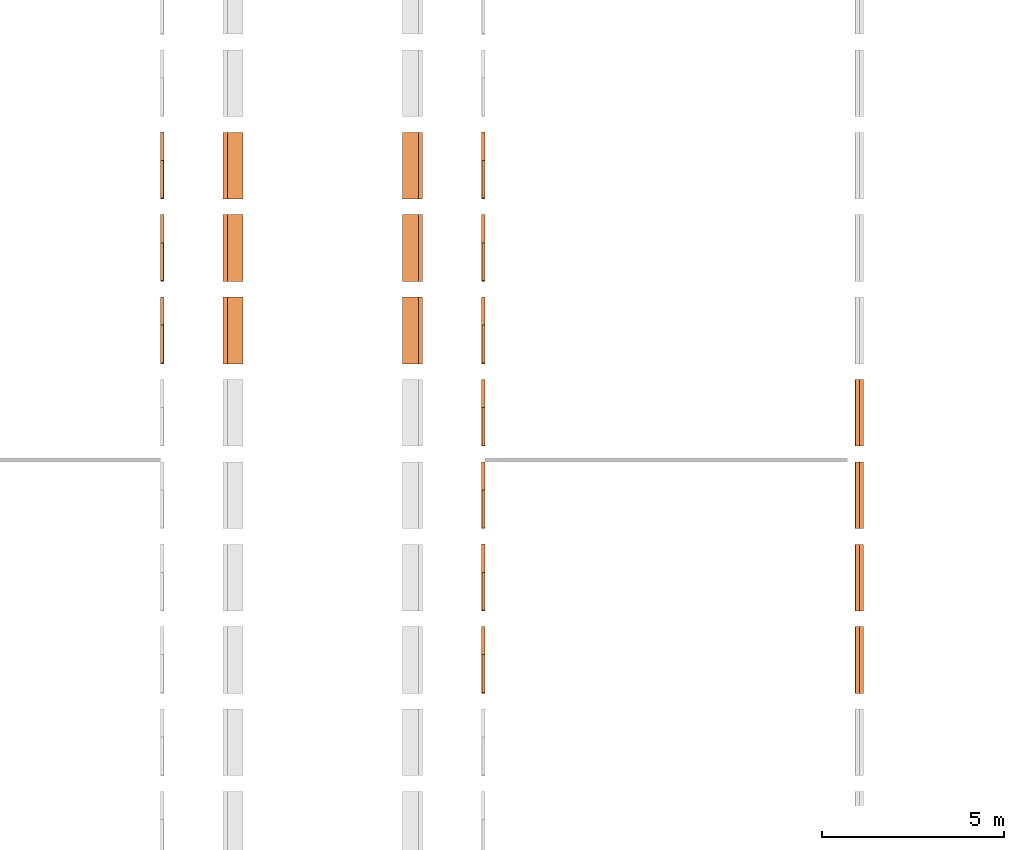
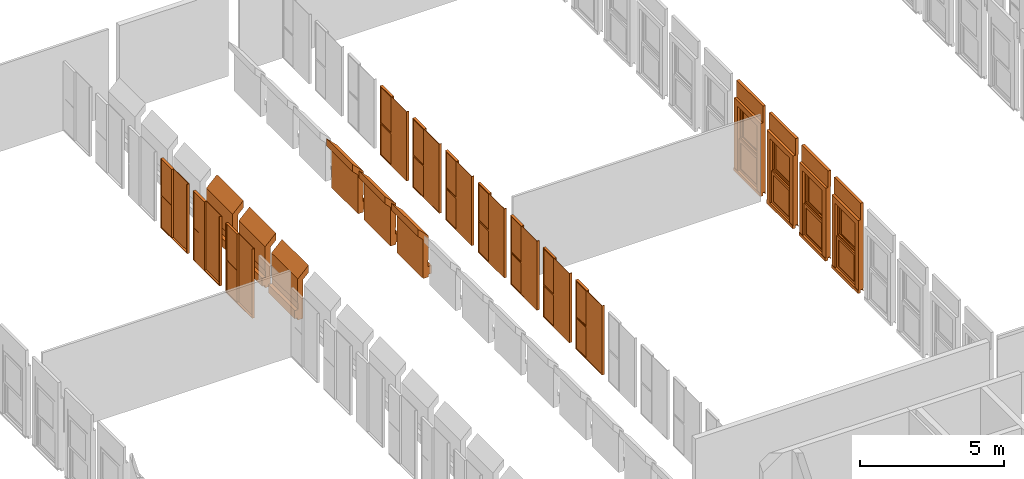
# One storey, part 13 of 16: 20 proxies.
"""IFC2X3 building model written with IfcOpenShell, lengths in millimetres."""

from ifc_helpers import new_model, entity, si_unit, converted_unit, derived_unit, direction, frame, frame_2d, origin, origin_2d_with_axis, place, context, subcontext, project, spatial, polyline, rectangle, outline, extrude, source, transform, mapped, material, material_list, type_object, type_shapes, element, save


model = new_model("IFC2X3")

# Units and contexts
model_context = context("Model", 3, precision=0.01, world=origin(), true_north=direction((6.12303176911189e-17, 1.0)))
body_context = subcontext(model_context, "Body", "Model", "MODEL_VIEW")
ifc_project = project(units=[si_unit("LENGTHUNIT", "METRE", prefix="MILLI"), si_unit("AREAUNIT", "SQUARE_METRE"), si_unit("VOLUMEUNIT", "CUBIC_METRE"), converted_unit("PLANEANGLEUNIT", "DEGREE", entity("IfcRatioMeasure", 0.0174532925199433), si_unit("PLANEANGLEUNIT", "RADIAN"), dimensions=[0, 0, 0, 0, 0, 0, 0]), si_unit("MASSUNIT", "GRAM", prefix="KILO"), derived_unit("MASSDENSITYUNIT", [(si_unit("MASSUNIT", "GRAM", prefix="KILO"), 1), (si_unit("LENGTHUNIT", "METRE"), -3)]), derived_unit("MOMENTOFINERTIAUNIT", [(si_unit("LENGTHUNIT", "METRE"), 4)]), si_unit("TIMEUNIT", "SECOND"), si_unit("FREQUENCYUNIT", "HERTZ"), si_unit("THERMODYNAMICTEMPERATUREUNIT", "DEGREE_CELSIUS"), derived_unit("THERMALTRANSMITTANCEUNIT", [(si_unit("MASSUNIT", "GRAM", prefix="KILO"), 1), (si_unit("THERMODYNAMICTEMPERATUREUNIT", "KELVIN"), -1), (si_unit("TIMEUNIT", "SECOND"), -3)]), derived_unit("VOLUMETRICFLOWRATEUNIT", [(si_unit("LENGTHUNIT", "METRE"), 3), (si_unit("TIMEUNIT", "SECOND"), -1)]), si_unit("ELECTRICCURRENTUNIT", "AMPERE"), si_unit("ELECTRICVOLTAGEUNIT", "VOLT"), si_unit("POWERUNIT", "WATT"), si_unit("FORCEUNIT", "NEWTON", prefix="KILO"), si_unit("ILLUMINANCEUNIT", "LUX"), si_unit("LUMINOUSFLUXUNIT", "LUMEN"), si_unit("LUMINOUSINTENSITYUNIT", "CANDELA"), derived_unit("USERDEFINED", [(si_unit("MASSUNIT", "GRAM", prefix="KILO"), -1), (si_unit("LENGTHUNIT", "METRE"), -2), (si_unit("TIMEUNIT", "SECOND"), 3), (si_unit("LUMINOUSFLUXUNIT", "LUMEN"), 1)]), derived_unit("LINEARVELOCITYUNIT", [(si_unit("LENGTHUNIT", "METRE"), 1), (si_unit("TIMEUNIT", "SECOND"), -1)]), si_unit("PRESSUREUNIT", "PASCAL"), derived_unit("USERDEFINED", [(si_unit("LENGTHUNIT", "METRE"), -2), (si_unit("MASSUNIT", "GRAM", prefix="KILO"), 1), (si_unit("TIMEUNIT", "SECOND"), -2)]), derived_unit("LINEARFORCEUNIT", [(si_unit("MASSUNIT", "GRAM", prefix="KILO"), 1), (si_unit("LENGTHUNIT", "METRE"), 1), (si_unit("TIMEUNIT", "SECOND"), -2), (si_unit("LENGTHUNIT", "METRE"), -1)]), derived_unit("PLANARFORCEUNIT", [(si_unit("MASSUNIT", "GRAM", prefix="KILO"), 1), (si_unit("LENGTHUNIT", "METRE"), 1), (si_unit("TIMEUNIT", "SECOND"), -2), (si_unit("LENGTHUNIT", "METRE"), -2)])], contexts=[model_context])

# Site, building, storey
site_placement = place(None, frame((10627.5135316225, 21939.0796949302, 0.0)))
site = spatial("IfcSite", under=ifc_project, at=site_placement, Name="Default", CompositionType="ELEMENT")
building_placement = place(site_placement, origin())
building = spatial("IfcBuilding", under=site, at=building_placement, CompositionType="ELEMENT")
storey_placement = place(building_placement, frame((0.0, 0.0, 3660.0)))
storey = spatial("IfcBuildingStorey", under=building, at=storey_placement, Name="R+1", CompositionType="ELEMENT", Elevation=3660.0)

# Proxies
ifc_material_1 = material(Name="PVC, Flexible")
ifc_material_2 = material(Name="Glass")
ifc_material_list_1 = material_list([ifc_material_1, ifc_material_2])
building_element_proxy_type_1 = type_object("IfcBuildingElementProxyType", Name="FENETRE.dwg:Fenetre ext 296+70", PredefinedType="NOTDEFINED", material=ifc_material_1)
shared_shape_1 = source(origin(), body_context, "Body", "SweptSolid", [
    extrude(rectangle(XDim=112.500043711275, YDim=1829.99999999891, at=origin_2d_with_axis()), frame((-10.4189092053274, -56.2500218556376, 2960.0), z_axis=(0.0, 0.0, 1.0), x_axis=(0.0, 1.0, 0.0)), (0.0, 0.0, 1.0), 700.0),
    extrude(outline(polyline([(27.5499763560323, -64.4170494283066), (47.5499763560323, -64.4170494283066), (47.5499763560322, -59.4170494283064), (28.7622905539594, -59.4170494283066), (7.54997635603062, 46.6946996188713), (-42.4500236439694, 46.6946996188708), (-42.4500236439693, 32.9446996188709), (-39.9500236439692, 32.9446996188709), (-39.9500236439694, 44.1946996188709), (5.83789859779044, 44.1946996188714), (27.5499763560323, -64.4170494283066)])), frame((-925.418909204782, -66.917049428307, -47.5499763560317), z_axis=(1.0, 0.0, 0.0), x_axis=(0.0, 0.0, 1.0)), (0.0, 0.0, 1.0), 1829.99999999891),
    extrude(outline(polyline([(-54.506636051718, -66.1431859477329), (58.0333803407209, -66.1431859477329), (54.4666704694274, 67.6422744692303), (-57.9934147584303, 64.6440974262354), (-54.506636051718, -66.1431859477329)])), frame((-925.418909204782, 56.2500218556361, -63.833312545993), z_axis=(1.0, 0.0, 0.0), x_axis=(0.0, -0.999644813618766, 0.0266504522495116)), (0.0, 0.0, 1.0), 1829.99999999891),
    extrude(outline(polyline([(-97.0007159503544, -55.5555555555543), (5.85738417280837, -55.5555555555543), (95.357341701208, -55.5555555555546), (95.357341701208, -45.5555555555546), (105.357341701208, -45.5555555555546), (105.357341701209, 174.444444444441), (-106.642659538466, 174.444444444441), (-106.642659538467, -45.5555555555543), (-97.0007159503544, -45.5555555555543), (-97.0007159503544, -55.5555555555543)])), frame((849.025535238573, -5.85738417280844, 0.0), z_axis=(0.0, 0.0, 1.0), x_axis=(0.0, 1.0, 0.0)), (0.0, 0.0, 1.0), 2960.0),
    extrude(rectangle(XDim=1369.99999999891, YDim=199.499957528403, at=origin_2d_with_axis()), frame((-10.4189092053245, -0.250021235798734, 2730.0), z_axis=(0.0, 0.0, 1.0), x_axis=(-1.0, 0.0, 0.0)), (0.0, 0.0, 1.0), 230.000000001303),
    extrude(outline(polyline([(-55.5555555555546, 97.0007159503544), (-55.5555555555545, -5.85738417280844), (-55.5555555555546, -95.357341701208), (-45.5555555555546, -95.3573417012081), (-45.5555555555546, -105.357341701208), (174.444444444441, -105.357341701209), (174.444444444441, 106.642659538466), (-45.5555555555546, 106.642659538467), (-45.5555555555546, 97.0007159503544), (-55.5555555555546, 97.0007159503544)])), frame((-869.863353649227, -5.85738417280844, 0.0), z_axis=(0.0, 0.0, -1.0), x_axis=(1.0, 0.0, 0.0)), (0.0, 0.0, -1.0), 2960.0),
    extrude(rectangle(XDim=1079.99999999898, YDim=1.0, at=origin_2d_with_axis()), frame((-10.4189092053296, 19.5, 130.0), z_axis=(0.0, 0.0, 1.0), x_axis=(-1.0, 0.0, 0.0)), (0.0, 0.0, 1.0), 1120.00000000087),
    extrude(rectangle(XDim=1079.99999999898, YDim=1.0, at=origin_2d_with_axis()), frame((-10.4189092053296, 30.5, 130.0), z_axis=(0.0, 0.0, 1.0), x_axis=(-1.0, 0.0, 0.0)), (0.0, 0.0, 1.0), 1120.00000000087),
    extrude(rectangle(XDim=1079.99999999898, YDim=1.0, at=frame_2d((0.0, 4.21884749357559e-15), x_axis=(1.0, 0.0))), frame((-10.4189092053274, -69.5, 1465.0), z_axis=(0.0, 0.0, 1.0), x_axis=(-1.0, 0.0, 0.0)), (0.0, 0.0, 1.0), 1120.0),
    extrude(rectangle(XDim=1079.99999999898, YDim=0.999999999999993, at=frame_2d((0.0, -8.46545056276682e-15), x_axis=(1.0, 0.0))), frame((-10.4189092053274, -80.5, 1465.0), z_axis=(0.0, 0.0, 1.0), x_axis=(-1.0, 0.0, 0.0)), (0.0, 0.0, 1.0), 1120.00000000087),
    extrude(outline(polyline([(-685.0, -1365.0), (0.0, -1365.0), (685.0, -1365.0), (685.0, 1365.0), (0.0, 1365.0), (-685.0, 1365.0), (-685.0, -1365.0)]), holes=[polyline([(-640.0, -1320.0), (-640.0, -45.0), (0.0, -45.0), (640.0, -45.0), (640.0, -1320.0), (0.0, -1320.0), (-640.0, -1320.0)]), polyline([(-640.0, 40.0), (-640.0, 1315.0), (0.0, 1315.0), (640.0, 1315.0), (640.0, 40.0), (0.0, 40.0), (-640.0, 40.0)])]), frame((-10.4189092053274, -50.0, 1365.0), z_axis=(0.0, 1.0, 0.0), x_axis=(1.0, 0.0, 0.0)), (0.0, 0.0, 1.0), 50.0),
    extrude(outline(polyline([(-655.0, -667.500000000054), (655.0, -667.500000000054), (655.0, 667.500000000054), (-655.0, 667.500000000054), (-655.0, -667.500000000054)]), holes=[polyline([(-540.0, 552.500000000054), (540.0, 552.500000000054), (540.0, -567.500000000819), (-540.0, -567.500000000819), (-540.0, 552.500000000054)])]), frame((-10.4189092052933, 0.0, 697.500000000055), z_axis=(0.0, 1.0, 0.0), x_axis=(-1.0, 0.0, 0.0)), (0.0, 0.0, 1.0), 50.0),
    extrude(outline(polyline([(-655.0, -667.500000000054), (655.0, -667.500000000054), (655.0, 667.500000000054), (-655.0, 667.500000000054), (-655.0, -667.500000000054)]), holes=[polyline([(-540.0, 552.500000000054), (540.0, 552.500000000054), (540.0, -567.500000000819), (-540.0, -567.500000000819), (-540.0, 552.500000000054)])]), frame((-10.4189092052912, -100.0, 2032.50000000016), z_axis=(0.0, 1.0, 0.0), x_axis=(-1.0, 0.0, 0.0)), (0.0, 0.0, 1.0), 50.0),
])
type_shapes(building_element_proxy_type_1, [shared_shape_1])
proxy_1_placement = place(storey_placement, frame((41294.0694789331, 1801.33921427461, 0.0), z_axis=(0.0, 0.0, 1.0), x_axis=(0.0, 1.0, 0.0)))
element("IfcBuildingElementProxy", 1, at=proxy_1_placement, inside=storey, type_object=building_element_proxy_type_1, material=ifc_material_list_1, Name="FENETRE.dwg:Fenetre ext 296+70", ObjectType="FENETRE.dwg:Fenetre ext 296+70", context=body_context, shape_type="MappedRepresentation", body=[
    mapped(shared_shape_1, transform((0.0, 0.0, 0.0), scale=1.0)),
])
ifc_material_list_2 = material_list([ifc_material_1, ifc_material_2])
proxy_2_placement = place(storey_placement, frame((41294.0694789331, -458.660785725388, 0.0), z_axis=(0.0, 0.0, 1.0), x_axis=(0.0, 1.0, 0.0)))
element("IfcBuildingElementProxy", 2, at=proxy_2_placement, inside=storey, type_object=building_element_proxy_type_1, material=ifc_material_list_2, Name="FENETRE.dwg:Fenetre ext 296+70", ObjectType="FENETRE.dwg:Fenetre ext 296+70", context=body_context, shape_type="MappedRepresentation", body=[
    mapped(shared_shape_1, transform((0.0, 0.0, 0.0), scale=1.0)),
])
ifc_material_list_3 = material_list([ifc_material_1, ifc_material_2])
proxy_3_placement = place(storey_placement, frame((41294.0694789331, -2718.66078572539, 0.0), z_axis=(0.0, 0.0, 1.0), x_axis=(0.0, 1.0, 0.0)))
element("IfcBuildingElementProxy", 3, at=proxy_3_placement, inside=storey, type_object=building_element_proxy_type_1, material=ifc_material_list_3, Name="FENETRE.dwg:Fenetre ext 296+70", ObjectType="FENETRE.dwg:Fenetre ext 296+70", context=body_context, shape_type="MappedRepresentation", body=[
    mapped(shared_shape_1, transform((0.0, 0.0, 0.0), scale=1.0)),
])
ifc_material_list_4 = material_list([ifc_material_1, ifc_material_2])
proxy_4_placement = place(storey_placement, frame((41294.0694789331, -4978.66078572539, 0.0), z_axis=(0.0, 0.0, 1.0), x_axis=(0.0, 1.0, 0.0)))
element("IfcBuildingElementProxy", 4, at=proxy_4_placement, inside=storey, type_object=building_element_proxy_type_1, material=ifc_material_list_4, Name="FENETRE.dwg:Fenetre ext 296+70", ObjectType="FENETRE.dwg:Fenetre ext 296+70", context=body_context, shape_type="MappedRepresentation", body=[
    mapped(shared_shape_1, transform((0.0, 0.0, 0.0), scale=1.0)),
])
ifc_material_3 = material(Name="Plywood, Sheathing")
ifc_material_list_5 = material_list([ifc_material_3, ifc_material_2])
building_element_proxy_type_2 = type_object("IfcBuildingElementProxyType", Name="Porte noire:Porte noire", PredefinedType="NOTDEFINED", material=ifc_material_3)
shared_shape_2 = source(origin(), body_context, "Body", "SweptSolid", [
    extrude(rectangle(XDim=100.0, YDim=23.0000000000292, at=origin_2d_with_axis()), frame((-950.918997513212, -50.0, 8.73189890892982), z_axis=(0.0, 0.0, 1.0), x_axis=(0.0, 1.0, 0.0)), (0.0, 0.0, 1.0), 2933.34951039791),
    extrude(rectangle(XDim=19.0, YDim=1038.0, at=frame_2d((7.99360577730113e-15, 0.0), x_axis=(1.0, 0.0))), frame((-420.418997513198, -87.5, 43.7318989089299), z_axis=(0.0, 0.0, 1.0), x_axis=(0.0, 1.0, 0.0)), (0.0, 0.0, 1.0), 2898.5),
    extrude(rectangle(XDim=100.0, YDim=1775.0, at=origin_2d_with_axis()), frame((-51.9189975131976, -50.0, 8.73189890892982), z_axis=(0.0, 0.0, 1.0), x_axis=(0.0, 1.0, 0.0)), (0.0, 0.0, 1.0), 35.0000000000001),
    extrude(rectangle(XDim=100.0, YDim=35.0000000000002, at=origin_2d_with_axis()), frame((853.081002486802, -50.0, 8.73189890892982), z_axis=(0.0, 0.0, 1.0), x_axis=(0.0, 1.0, 0.0)), (0.0, 0.0, 1.0), 2898.5),
    extrude(rectangle(XDim=100.0, YDim=740.0, at=origin_2d_with_axis()), frame((500.581002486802, -50.0, 2907.23189890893), z_axis=(0.0, 0.0, 1.0), x_axis=(0.0, 1.0, 0.0)), (0.0, 0.0, 1.0), 35.0000000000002),
    extrude(rectangle(XDim=100.0, YDim=31.9999999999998, at=origin_2d_with_axis()), frame((114.581002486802, -50.0, 43.7318989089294), z_axis=(0.0, 0.0, 1.0), x_axis=(0.0, 1.0, 0.0)), (0.0, 0.0, 1.0), 2898.5),
    extrude(rectangle(XDim=100.0, YDim=705.0, at=origin_2d_with_axis()), frame((483.081002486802, -50.0, 1343.73189890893), z_axis=(0.0, 0.0, 1.0), x_axis=(0.0, 1.0, 0.0)), (0.0, 0.0, 1.0), 55.0),
    extrude(outline(polyline([(-352.5, -650.0), (352.5, -650.0), (352.5, 650.0), (-352.5, 650.0), (-352.5, -650.0)]), holes=[polyline([(342.5, 640.0), (342.5, -640.0), (-342.5, -640.0), (-342.5, 640.0), (342.5, 640.0)])]), frame((483.081002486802, -80.0, 693.73189890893), z_axis=(0.0, 1.0, 0.0), x_axis=(1.0, 0.0, 0.0)), (0.0, 0.0, 1.0), 70.0),
    extrude(outline(polyline([(-754.25, -352.5), (754.25, -352.5), (754.25, 352.5), (-754.25, 352.5), (-754.25, -352.5)]), holes=[polyline([(744.25, 342.5), (744.25, -342.5), (-744.25, -342.5), (-744.25, 342.5), (744.25, 342.5)])]), frame((483.081002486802, -80.0, 2152.98189890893), z_axis=(0.0, 1.0, 0.0), x_axis=(0.0, 0.0, 1.0)), (0.0, 0.0, 1.0), 70.0),
    extrude(outline(polyline([(-640.0, -342.5), (640.0, -342.5), (640.0, 342.5), (-640.0, 342.5), (-640.0, -342.5)]), holes=[polyline([(630.0, 332.5), (630.0, -332.5), (-630.0, -332.5), (-630.0, 332.5), (630.0, 332.5)])]), frame((483.081002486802, -81.0, 693.731898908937), z_axis=(0.0, 1.0, 0.0), x_axis=(0.0, 0.0, 1.0)), (0.0, 0.0, 1.0), 3.99999999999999),
    extrude(outline(polyline([(-744.25, -342.5), (744.25, -342.5), (744.25, 342.5), (-744.25, 342.5), (-744.25, -342.5)]), holes=[polyline([(734.25, 332.5), (734.25, -332.5), (-734.25, -332.5), (-734.25, 332.5), (734.25, 332.5)])]), frame((483.081002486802, -81.0, 2152.98189890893), z_axis=(0.0, 1.0, 0.0), x_axis=(0.0, 0.0, 1.0)), (0.0, 0.0, 1.0), 3.99999999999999),
    extrude(outline(polyline([(-640.0, -342.5), (640.0, -342.5), (640.0, 342.5), (-640.0, 342.5), (-640.0, -342.5)]), holes=[polyline([(630.0, 332.5), (630.0, -332.5), (-630.0, -332.5), (-630.0, 332.5), (630.0, 332.5)])]), frame((483.081002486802, -15.0, 693.782575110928), z_axis=(0.0, 1.0, 0.0), x_axis=(0.0, 0.0, 1.0)), (0.0, 0.0, 1.0), 5.0),
    extrude(outline(polyline([(-744.25, -342.5), (744.25, -342.5), (744.25, 342.5), (-744.25, 342.5), (-744.25, -342.5)]), holes=[polyline([(734.25, 332.5), (734.25, -332.5), (-734.25, -332.5), (-734.25, 332.5), (734.25, 332.5)])]), frame((483.081002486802, -15.0, 2153.03257511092), z_axis=(0.0, 1.0, 0.0), x_axis=(0.0, 0.0, 1.0)), (0.0, 0.0, 1.0), 5.0),
    extrude(rectangle(XDim=2.0, YDim=665.0, at=frame_2d((8.43769498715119e-15, 0.0), x_axis=(1.0, 0.0))), frame((483.081002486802, -79.0, 1418.73189890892), z_axis=(0.0, 0.0, 1.0), x_axis=(0.0, 1.0, 0.0)), (0.0, 0.0, 1.0), 1468.50000000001),
    extrude(rectangle(XDim=2.0, YDim=665.0, at=frame_2d((8.43769498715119e-15, 0.0), x_axis=(1.0, 0.0))), frame((483.081002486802, -79.0, 63.7318989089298), z_axis=(0.0, 0.0, 1.0), x_axis=(0.0, 1.0, 0.0)), (0.0, 0.0, 1.0), 1260.0),
    extrude(rectangle(XDim=2.0, YDim=665.0, at=frame_2d((1.0547118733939e-15, 0.0), x_axis=(1.0, 0.0))), frame((483.081002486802, -13.0, 1418.78257511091), z_axis=(0.0, 0.0, 1.0), x_axis=(0.0, 1.0, 0.0)), (0.0, 0.0, 1.0), 1468.50000000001),
    extrude(rectangle(XDim=2.0, YDim=665.0, at=frame_2d((1.0547118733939e-15, 0.0), x_axis=(1.0, 0.0))), frame((483.081002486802, -13.0, 63.7825751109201), z_axis=(0.0, 0.0, 1.0), x_axis=(0.0, 1.0, 0.0)), (0.0, 0.0, 1.0), 1260.0),
])
type_shapes(building_element_proxy_type_2, [shared_shape_2])
proxy_5_placement = place(storey_placement, frame((22127.8464640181, 4097.33930258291, 0.0), z_axis=(0.0, 0.0, 1.0), x_axis=(0.0, 1.0, 0.0)))
element("IfcBuildingElementProxy", 5, at=proxy_5_placement, inside=storey, type_object=building_element_proxy_type_2, material=ifc_material_list_5, Name="Porte noire:Porte noire", ObjectType="Porte noire:Porte noire", context=body_context, shape_type="MappedRepresentation", body=[
    mapped(shared_shape_2, transform((0.0, 0.0, 0.0), scale=1.0)),
])
ifc_material_list_6 = material_list([ifc_material_3, ifc_material_2])
proxy_6_placement = place(storey_placement, frame((22127.8464640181, 6357.33930258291, 0.0), z_axis=(0.0, 0.0, 1.0), x_axis=(0.0, 1.0, 0.0)))
element("IfcBuildingElementProxy", 6, at=proxy_6_placement, inside=storey, type_object=building_element_proxy_type_2, material=ifc_material_list_6, Name="Porte noire:Porte noire", ObjectType="Porte noire:Porte noire", context=body_context, shape_type="MappedRepresentation", body=[
    mapped(shared_shape_2, transform((0.0, 0.0, 0.0), scale=1.0)),
])
ifc_material_list_7 = material_list([ifc_material_3, ifc_material_2])
proxy_7_placement = place(storey_placement, frame((22127.8464640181, 8617.33930258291, 0.0), z_axis=(0.0, 0.0, 1.0), x_axis=(0.0, 1.0, 0.0)))
element("IfcBuildingElementProxy", 7, at=proxy_7_placement, inside=storey, type_object=building_element_proxy_type_2, material=ifc_material_list_7, Name="Porte noire:Porte noire", ObjectType="Porte noire:Porte noire", context=body_context, shape_type="MappedRepresentation", body=[
    mapped(shared_shape_2, transform((0.0, 0.0, 0.0), scale=1.0)),
])
ifc_material_list_8 = material_list([ifc_material_3, ifc_material_2])
building_element_proxy_type_3 = type_object("IfcBuildingElementProxyType", Name="Porte noire:Porte noire", PredefinedType="NOTDEFINED", material=ifc_material_3)
shared_shape_3 = source(origin(), body_context, "Body", "SweptSolid", [
    extrude(rectangle(XDim=23.0000000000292, YDim=100.0, at=frame_2d((-1.35891298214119e-13, 0.0), x_axis=(1.0, 0.0))), frame((-950.918997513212, 50.0, 8.73189890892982), z_axis=(0.0, 0.0, 1.0), x_axis=(-1.0, 0.0, 0.0)), (0.0, 0.0, 1.0), 2933.34951039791),
    extrude(rectangle(XDim=1038.0, YDim=19.0, at=frame_2d((0.0, 7.99360577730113e-15), x_axis=(1.0, 0.0))), frame((-420.418997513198, 87.5, 43.7318989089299), z_axis=(0.0, 0.0, 1.0), x_axis=(-1.0, 0.0, 0.0)), (0.0, 0.0, 1.0), 2898.5),
    extrude(rectangle(XDim=1775.0, YDim=100.0, at=origin_2d_with_axis()), frame((-51.9189975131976, 50.0, 8.73189890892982), z_axis=(0.0, 0.0, 1.0), x_axis=(-1.0, 0.0, 0.0)), (0.0, 0.0, 1.0), 35.0000000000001),
    extrude(rectangle(XDim=35.0000000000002, YDim=100.0, at=origin_2d_with_axis()), frame((853.081002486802, 50.0, 8.73189890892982), z_axis=(0.0, 0.0, 1.0), x_axis=(-1.0, 0.0, 0.0)), (0.0, 0.0, 1.0), 2898.5),
    extrude(rectangle(XDim=740.0, YDim=100.0, at=origin_2d_with_axis()), frame((500.581002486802, 50.0, 2907.23189890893), z_axis=(0.0, 0.0, 1.0), x_axis=(-1.0, 0.0, 0.0)), (0.0, 0.0, 1.0), 35.0000000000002),
    extrude(rectangle(XDim=31.9999999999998, YDim=100.0, at=origin_2d_with_axis()), frame((114.581002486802, 50.0, 43.7318989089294), z_axis=(0.0, 0.0, 1.0), x_axis=(-1.0, 0.0, 0.0)), (0.0, 0.0, 1.0), 2898.5),
    extrude(rectangle(XDim=705.0, YDim=100.0, at=origin_2d_with_axis()), frame((483.081002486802, 50.0, 1343.73189890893), z_axis=(0.0, 0.0, 1.0), x_axis=(-1.0, 0.0, 0.0)), (0.0, 0.0, 1.0), 55.0),
    extrude(outline(polyline([(-352.5, -650.0), (352.5, -650.0), (352.5, 650.0), (-352.5, 650.0), (-352.5, -650.0)]), holes=[polyline([(342.5, 640.0), (342.5, -640.0), (-342.5, -640.0), (-342.5, 640.0), (342.5, 640.0)])]), frame((483.081002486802, 10.0, 693.73189890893), z_axis=(0.0, 1.0, 0.0), x_axis=(1.0, 0.0, 0.0)), (0.0, 0.0, 1.0), 70.0),
    extrude(outline(polyline([(-754.25, -352.5), (754.25, -352.5), (754.25, 352.5), (-754.25, 352.5), (-754.25, -352.5)]), holes=[polyline([(744.25, 342.5), (744.25, -342.5), (-744.25, -342.5), (-744.25, 342.5), (744.25, 342.5)])]), frame((483.081002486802, 10.0, 2152.98189890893), z_axis=(0.0, 1.0, 0.0), x_axis=(0.0, 0.0, 1.0)), (0.0, 0.0, 1.0), 70.0),
    extrude(outline(polyline([(-640.0, -342.5), (640.0, -342.5), (640.0, 342.5), (-640.0, 342.5), (-640.0, -342.5)]), holes=[polyline([(630.0, 332.5), (630.0, -332.5), (-630.0, -332.5), (-630.0, 332.5), (630.0, 332.5)])]), frame((483.081002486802, 77.0, 693.731898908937), z_axis=(0.0, 1.0, 0.0), x_axis=(0.0, 0.0, 1.0)), (0.0, 0.0, 1.0), 3.99999999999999),
    extrude(outline(polyline([(-744.25, -342.5), (744.25, -342.5), (744.25, 342.5), (-744.25, 342.5), (-744.25, -342.5)]), holes=[polyline([(734.25, 332.5), (734.25, -332.5), (-734.25, -332.5), (-734.25, 332.5), (734.25, 332.5)])]), frame((483.081002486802, 77.0, 2152.98189890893), z_axis=(0.0, 1.0, 0.0), x_axis=(0.0, 0.0, 1.0)), (0.0, 0.0, 1.0), 3.99999999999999),
    extrude(outline(polyline([(-640.0, -342.5), (640.0, -342.5), (640.0, 342.5), (-640.0, 342.5), (-640.0, -342.5)]), holes=[polyline([(630.0, 332.5), (630.0, -332.5), (-630.0, -332.5), (-630.0, 332.5), (630.0, 332.5)])]), frame((483.081002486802, 10.0, 693.782575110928), z_axis=(0.0, 1.0, 0.0), x_axis=(0.0, 0.0, 1.0)), (0.0, 0.0, 1.0), 5.0),
    extrude(outline(polyline([(-744.25, -342.5), (744.25, -342.5), (744.25, 342.5), (-744.25, 342.5), (-744.25, -342.5)]), holes=[polyline([(734.25, 332.5), (734.25, -332.5), (-734.25, -332.5), (-734.25, 332.5), (734.25, 332.5)])]), frame((483.081002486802, 10.0, 2153.03257511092), z_axis=(0.0, 1.0, 0.0), x_axis=(0.0, 0.0, 1.0)), (0.0, 0.0, 1.0), 5.0),
    extrude(rectangle(XDim=665.0, YDim=2.0, at=frame_2d((0.0, 8.43769498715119e-15), x_axis=(1.0, 0.0))), frame((483.081002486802, 79.0, 1418.73189890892), z_axis=(0.0, 0.0, 1.0), x_axis=(-1.0, 0.0, 0.0)), (0.0, 0.0, 1.0), 1468.50000000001),
    extrude(rectangle(XDim=665.0, YDim=2.0, at=frame_2d((0.0, 8.43769498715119e-15), x_axis=(1.0, 0.0))), frame((483.081002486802, 79.0, 63.7318989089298), z_axis=(0.0, 0.0, 1.0), x_axis=(-1.0, 0.0, 0.0)), (0.0, 0.0, 1.0), 1260.0),
    extrude(rectangle(XDim=665.0, YDim=2.0, at=frame_2d((0.0, 1.0547118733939e-15), x_axis=(1.0, 0.0))), frame((483.081002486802, 13.0, 1418.78257511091), z_axis=(0.0, 0.0, 1.0), x_axis=(-1.0, 0.0, 0.0)), (0.0, 0.0, 1.0), 1468.50000000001),
    extrude(rectangle(XDim=665.0, YDim=2.0, at=frame_2d((0.0, 1.0547118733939e-15), x_axis=(1.0, 0.0))), frame((483.081002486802, 13.0, 63.7825751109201), z_axis=(0.0, 0.0, 1.0), x_axis=(-1.0, 0.0, 0.0)), (0.0, 0.0, 1.0), 1260.0),
])
type_shapes(building_element_proxy_type_3, [shared_shape_3])
proxy_8_placement = place(storey_placement, frame((31027.1264727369, -4942.66069741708, 0.0), z_axis=(0.0, 0.0, 1.0), x_axis=(0.0, 1.0, 0.0)))
element("IfcBuildingElementProxy", 8, at=proxy_8_placement, inside=storey, type_object=building_element_proxy_type_3, material=ifc_material_list_8, Name="Porte noire:Porte noire", ObjectType="Porte noire:Porte noire", context=body_context, shape_type="MappedRepresentation", body=[
    mapped(shared_shape_3, transform((0.0, 0.0, 0.0), scale=1.0)),
])
ifc_material_list_9 = material_list([ifc_material_3, ifc_material_2])
proxy_9_placement = place(storey_placement, frame((31027.1264727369, -2682.66069741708, 0.0), z_axis=(0.0, 0.0, 1.0), x_axis=(0.0, 1.0, 0.0)))
element("IfcBuildingElementProxy", 9, at=proxy_9_placement, inside=storey, type_object=building_element_proxy_type_3, material=ifc_material_list_9, Name="Porte noire:Porte noire", ObjectType="Porte noire:Porte noire", context=body_context, shape_type="MappedRepresentation", body=[
    mapped(shared_shape_3, transform((0.0, 0.0, 0.0), scale=1.0)),
])
ifc_material_list_10 = material_list([ifc_material_3, ifc_material_2])
proxy_10_placement = place(storey_placement, frame((31027.1264727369, -422.660697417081, 0.0), z_axis=(0.0, 0.0, 1.0), x_axis=(0.0, 1.0, 0.0)))
element("IfcBuildingElementProxy", 10, at=proxy_10_placement, inside=storey, type_object=building_element_proxy_type_3, material=ifc_material_list_10, Name="Porte noire:Porte noire", ObjectType="Porte noire:Porte noire", context=body_context, shape_type="MappedRepresentation", body=[
    mapped(shared_shape_3, transform((0.0, 0.0, 0.0), scale=1.0)),
])
ifc_material_list_11 = material_list([ifc_material_3, ifc_material_2])
proxy_11_placement = place(storey_placement, frame((31027.1264727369, 1837.33930258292, 0.0), z_axis=(0.0, 0.0, 1.0), x_axis=(0.0, 1.0, 0.0)))
element("IfcBuildingElementProxy", 11, at=proxy_11_placement, inside=storey, type_object=building_element_proxy_type_3, material=ifc_material_list_11, Name="Porte noire:Porte noire", ObjectType="Porte noire:Porte noire", context=body_context, shape_type="MappedRepresentation", body=[
    mapped(shared_shape_3, transform((0.0, 0.0, 0.0), scale=1.0)),
])
ifc_material_list_12 = material_list([ifc_material_3, ifc_material_2])
proxy_12_placement = place(storey_placement, frame((31027.1264727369, 4097.33930258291, 0.0), z_axis=(0.0, 0.0, 1.0), x_axis=(0.0, 1.0, 0.0)))
element("IfcBuildingElementProxy", 12, at=proxy_12_placement, inside=storey, type_object=building_element_proxy_type_3, material=ifc_material_list_12, Name="Porte noire:Porte noire", ObjectType="Porte noire:Porte noire", context=body_context, shape_type="MappedRepresentation", body=[
    mapped(shared_shape_3, transform((0.0, 0.0, 0.0), scale=1.0)),
])
ifc_material_list_13 = material_list([ifc_material_3, ifc_material_2])
proxy_13_placement = place(storey_placement, frame((31027.1264727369, 6357.33930258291, 0.0), z_axis=(0.0, 0.0, 1.0), x_axis=(0.0, 1.0, 0.0)))
element("IfcBuildingElementProxy", 13, at=proxy_13_placement, inside=storey, type_object=building_element_proxy_type_3, material=ifc_material_list_13, Name="Porte noire:Porte noire", ObjectType="Porte noire:Porte noire", context=body_context, shape_type="MappedRepresentation", body=[
    mapped(shared_shape_3, transform((0.0, 0.0, 0.0), scale=1.0)),
])
ifc_material_list_14 = material_list([ifc_material_3, ifc_material_2])
proxy_14_placement = place(storey_placement, frame((31027.1264727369, 8617.33930258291, 0.0), z_axis=(0.0, 0.0, 1.0), x_axis=(0.0, 1.0, 0.0)))
element("IfcBuildingElementProxy", 14, at=proxy_14_placement, inside=storey, type_object=building_element_proxy_type_3, material=ifc_material_list_14, Name="Porte noire:Porte noire", ObjectType="Porte noire:Porte noire", context=body_context, shape_type="MappedRepresentation", body=[
    mapped(shared_shape_3, transform((0.0, 0.0, 0.0), scale=1.0)),
])
ifc_material_4 = material(Name="Concrete, Precast Smooth, Light Grey")
building_element_proxy_type_4 = type_object("IfcBuildingElementProxyType", Name="Panneaux mediateque:Panneaux mediateque", PredefinedType="NOTDEFINED", material=ifc_material_4)
shared_shape_4 = source(origin(), body_context, "Body", "SweptSolid", [
    extrude(outline(polyline([(-998.434688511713, -508.899393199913), (-1213.39514999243, -723.859854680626), (-605.283318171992, -723.859854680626), (115.965598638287, -2.61093787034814), (101.823463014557, 11.5311977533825), (296.277827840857, 205.985562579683), (310.419963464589, 191.843426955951), (395.272229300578, 106.991161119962), (639.224068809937, 350.943000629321), (554.371802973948, 435.79526646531), (625.082466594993, 506.505930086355), (473.054508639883, 658.533888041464), (-694.378772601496, -508.899393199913), (-998.434688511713, -508.899393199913)])), frame((0.0, -203.845498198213, 800.153828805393), z_axis=(-1.0, 0.0, 0.0), x_axis=(0.0, 0.707106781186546, -0.707106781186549)), (0.0, 0.0, -1.0), 1830.0),
])
type_shapes(building_element_proxy_type_4, [shared_shape_4])
for number, where, z_axis, x_axis, name in (
    (15, (23837.4872432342, 7655.92030506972, -700.0), (0.0, 0.0, 1.0), (0.0, 1.0, 0.0), "Panneaux mediateque:Panneaux mediateque"),
    (16, (23837.4872432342, 5395.92030506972, -700.0), (0.0, 0.0, 1.0), (0.0, 1.0, 0.0), "Panneaux mediateque:Panneaux mediateque"),
    (17, (23837.4872432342, 3135.92030506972, -700.0), (0.0, 0.0, 1.0), (0.0, 1.0, 0.0), "Panneaux mediateque:Panneaux mediateque"),
):
    element("IfcBuildingElementProxy", number, at=place(storey_placement, frame(where, z_axis=z_axis, x_axis=x_axis)), inside=storey, type_object=building_element_proxy_type_4, material=ifc_material_4, Name=name, ObjectType="Panneaux mediateque:Panneaux mediateque", context=body_context, shape_type="MappedRepresentation", body=[
        mapped(shared_shape_4, transform((0.0, 0.0, 0.0), scale=1.0)),
    ])
building_element_proxy_type_5 = type_object("IfcBuildingElementProxyType", Name="Panneaux mediateque:Panneaux mediateque", PredefinedType="NOTDEFINED", material=ifc_material_4)
shared_shape_5 = source(origin(), body_context, "Body", "SweptSolid", [
    extrude(outline(polyline([(1065.84615069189, -346.153726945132), (1369.84615069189, -346.153726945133), (939.84615069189, 83.8462730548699), (-80.1538493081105, 83.8462730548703), (-80.1538493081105, 63.8462730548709), (-355.15384930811, 63.8462730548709), (-355.15384930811, 83.8462730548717), (-355.15384930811, 203.845498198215), (-700.153849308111, 203.845498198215), (-700.153849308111, 83.8462730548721), (-800.153828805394, 83.8462730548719), (-800.153828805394, -131.153726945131), (850.846150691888, -131.153726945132), (1065.84615069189, -346.153726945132)])), frame((0.0, 203.845498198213, 800.153828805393), z_axis=(1.0, 0.0, 0.0), x_axis=(0.0, 0.0, 1.0)), (0.0, 0.0, 1.0), 1830.0),
])
type_shapes(building_element_proxy_type_5, [shared_shape_5])
for number, where, z_axis, x_axis, name in (
    (18, (29317.4856935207, 7655.92030506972, -700.0), (0.0, 0.0, 1.0), (0.0, 1.0, 0.0), "Panneaux mediateque:Panneaux mediateque"),
    (19, (29317.4856935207, 5395.92030506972, -700.0), (0.0, 0.0, 1.0), (0.0, 1.0, 0.0), "Panneaux mediateque:Panneaux mediateque"),
    (20, (29317.4856935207, 3135.92030506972, -700.0), (0.0, 0.0, 1.0), (0.0, 1.0, 0.0), "Panneaux mediateque:Panneaux mediateque"),
):
    element("IfcBuildingElementProxy", number, at=place(storey_placement, frame(where, z_axis=z_axis, x_axis=x_axis)), inside=storey, type_object=building_element_proxy_type_5, material=ifc_material_4, Name=name, ObjectType="Panneaux mediateque:Panneaux mediateque", context=body_context, shape_type="MappedRepresentation", body=[
        mapped(shared_shape_5, transform((0.0, 0.0, 0.0), scale=1.0)),
    ])

save(model, "model.ifc")
